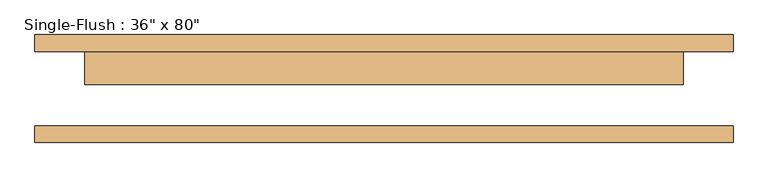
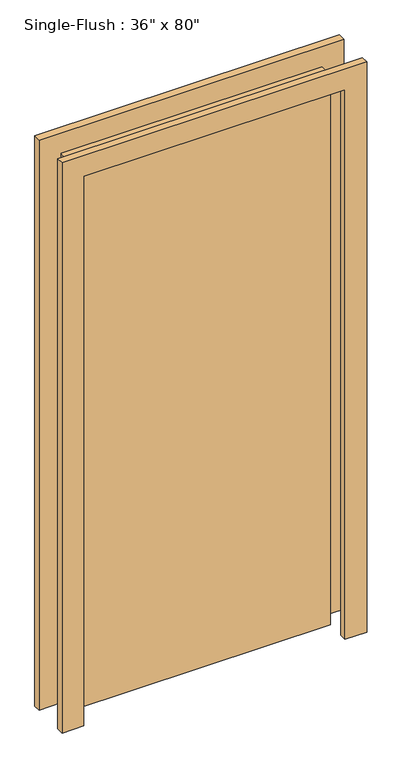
"""IFC4 building model written with IfcOpenShell, lengths in millimetres: door geometry."""

import ifcopenshell
import ifcopenshell.guid

model = None  # the IFC model being written
_history = None  # IfcOwnerHistory: only IFC2X3 demands one
_inside = {}  # id of a spatial element -> (the spatial element, [elements in it])
_under = {}  # id of a project, library or spatial element -> (it, [spatial elements below it])
_declared = {}  # id of a project -> (the project, [libraries it declares])
_typed = {}  # id of a type object -> (the type object, [elements of that type])
_made_of = {}  # id of a material, layer set ... -> (it, [elements and type objects made of it])


def new_model(schema):
    """Start an empty IFC model of exactly this schema.

    Asked for "IFC4X3", IfcOpenShell would pick the latest addendum, in which some entities
    have other attributes; the version numbers below select the first issue.
    IFC2X3 requires an IfcOwnerHistory on every rooted entity: one is made here for all.
    """
    global model, _history
    if schema == "IFC4X3":
        model = ifcopenshell.file(schema_version=(4, 3, 0, 0))
    else:
        model = ifcopenshell.file(schema=schema)
    _inside.clear()
    _under.clear()
    _declared.clear()
    _typed.clear()
    _made_of.clear()
    _history = None
    if model.schema == "IFC2X3":
        org = make("IfcOrganization", Name="unknown")
        user = make(
            "IfcPersonAndOrganization",
            ThePerson=make("IfcPerson", FamilyName="unknown"),
            TheOrganization=org,
        )
        app = make(
            "IfcApplication",
            ApplicationDeveloper=org,
            Version="unknown",
            ApplicationFullName="unknown",
            ApplicationIdentifier="unknown",
        )
        _history = make(
            "IfcOwnerHistory",
            OwningUser=user,
            OwningApplication=app,
            ChangeAction="ADDED",
            CreationDate=0,
        )
    return model


def make(cls, **values):
    """One entity of the class cls with the attributes given. An attribute that is None is left unset."""
    return model.create_entity(
        cls, **{name: value for name, value in values.items() if value is not None}
    )


def rooted(cls, **values):
    """An entity with a GlobalId (a new one), such as an element, a storey or a relation."""
    return make(cls, GlobalId=ifcopenshell.guid.new(), OwnerHistory=_history, **values)


def si_unit(unit_type, name, prefix=None):
    """IfcSIUnit, for example si_unit("LENGTHUNIT", "METRE", prefix="MILLI")."""
    return make("IfcSIUnit", UnitType=unit_type, Prefix=prefix, Name=name)


def assignment(units):
    """IfcUnitAssignment: the units of a project."""
    return None if units is None else make("IfcUnitAssignment", Units=units)


def point(xyz):
    """IfcCartesianPoint."""
    return None if xyz is None else make("IfcCartesianPoint", Coordinates=xyz)


def direction(xyz):
    """IfcDirection."""
    return None if xyz is None else make("IfcDirection", DirectionRatios=xyz)


def frame(location, z_axis=None, x_axis=None):
    """IfcAxis2Placement3D, a coordinate frame: its origin and axes. An axis left out is left unset."""
    return make(
        "IfcAxis2Placement3D",
        Location=point(location),
        Axis=direction(z_axis),
        RefDirection=direction(x_axis),
    )


def origin():
    """The frame at (0, 0, 0) with its axes left unset."""
    return frame((0.0, 0.0, 0.0))


def origin_with_axes():
    """The frame at (0, 0, 0) with the z axis (0, 0, 1) and the x axis (1, 0, 0) written out."""
    return frame((0.0, 0.0, 0.0), z_axis=(0.0, 0.0, 1.0), x_axis=(1.0, 0.0, 0.0))


def place(relative_to, where):
    """IfcLocalPlacement: puts the frame where relative to a parent placement (None: the world)."""
    return make(
        "IfcLocalPlacement", PlacementRelTo=relative_to, RelativePlacement=where
    )


def context(
    kind, dimensions, precision=None, world=None, true_north=None, identifier=None
):
    """IfcGeometricRepresentationContext, for example the 3D "Model" context."""
    return make(
        "IfcGeometricRepresentationContext",
        ContextIdentifier=identifier,
        ContextType=kind,
        CoordinateSpaceDimension=dimensions,
        Precision=precision,
        WorldCoordinateSystem=world,
        TrueNorth=true_north,
    )


def project(units=None, contexts=None):
    """IfcProject with its units and contexts."""
    return rooted(
        "IfcProject",
        Name="project",
        RepresentationContexts=contexts,
        UnitsInContext=assignment(units),
    )


def spatial(cls, under=None, at=None, **own):
    """A site, building, storey or space (cls), placed at a placement, below another one or the project."""
    s = rooted(cls, ObjectPlacement=at, **own)
    if under is not None:
        _under.setdefault(under.id(), (under, []))[1].append(s)
    return s


def polyline(points):
    """IfcPolyline through the points."""
    return make("IfcPolyline", Points=[point(p) for p in points])


def outline(outer, holes=None, kind="AREA"):
    """IfcArbitraryClosedProfileDef: a profile drawn as a closed curve; with holes, ...WithVoids."""
    if holes is None:
        return make("IfcArbitraryClosedProfileDef", ProfileType=kind, OuterCurve=outer)
    return make(
        "IfcArbitraryProfileDefWithVoids",
        ProfileType=kind,
        OuterCurve=outer,
        InnerCurves=holes,
    )


def extrude(swept, where, along, depth):
    """IfcExtrudedAreaSolid: the profile swept, set in the frame where, extruded along a direction by depth."""
    return make(
        "IfcExtrudedAreaSolid",
        SweptArea=swept,
        Position=where,
        ExtrudedDirection=direction(along),
        Depth=depth,
    )


def shape(context_of_items, identifier, shape_type, items):
    """IfcShapeRepresentation: the items that make up one representation, for example the "Body"."""
    return make(
        "IfcShapeRepresentation",
        ContextOfItems=context_of_items,
        RepresentationIdentifier=identifier,
        RepresentationType=shape_type,
        Items=items,
    )


def source(mapping_origin, context_of_items, identifier, shape_type, items):
    """IfcRepresentationMap: a shape defined once, which mapped items show again and again."""
    return make(
        "IfcRepresentationMap",
        MappingOrigin=mapping_origin,
        MappedRepresentation=shape(context_of_items, identifier, shape_type, items),
    )


def transform(
    local_origin,
    x_axis=None,
    y_axis=None,
    z_axis=None,
    scale=None,
    scale2=None,
    scale3=None,
    uniform=True,
):
    """IfcCartesianTransformationOperator3D, or its non-uniform kind. x_axis, y_axis, z_axis: its Axis1, 2, 3."""
    if uniform:
        return make(
            "IfcCartesianTransformationOperator3D",
            Axis1=direction(x_axis),
            Axis2=direction(y_axis),
            LocalOrigin=point(local_origin),
            Scale=scale,
            Axis3=direction(z_axis),
        )
    return make(
        "IfcCartesianTransformationOperator3DnonUniform",
        Axis1=direction(x_axis),
        Axis2=direction(y_axis),
        LocalOrigin=point(local_origin),
        Scale=scale,
        Axis3=direction(z_axis),
        Scale2=scale2,
        Scale3=scale3,
    )


def mapped(mapping_source, mapping_target):
    """IfcMappedItem: shows the shape of a source again, moved by a transform."""
    return make(
        "IfcMappedItem", MappingSource=mapping_source, MappingTarget=mapping_target
    )


def made_of(thing, what):
    """Note that an element or type object is made of a material, layer set ...; save() writes the relation."""
    if what is not None:
        _made_of.setdefault(what.id(), (what, []))[1].append(thing)
    return thing


def element(
    cls,
    number,
    at=None,
    inside=None,
    cuts=None,
    type_object=None,
    material=None,
    context=None,
    identifier="Body",
    shape_type=None,
    held_by="IfcProductDefinitionShape",
    body=None,
    shapes=None,
    **own,
):
    """One element of the class cls, such as IfcWall. Its Tag is "e" and its number.

    at: its placement. inside: the storey or other place that contains it. cuts: it is an
    opening in that element (IfcRelVoidsElement). A single representation is given by context,
    identifier, shape_type and body (its items); several are given by shapes. held_by: the class
    of the entity that holds the representations. save() writes the other relations.
    """
    e = rooted(cls, Tag="e%d" % number, ObjectPlacement=at, **own)
    if body is not None:
        shapes = [shape(context, identifier, shape_type, body)]
    if shapes is not None:
        e.Representation = make(held_by, Representations=shapes)
    if inside is not None:
        _inside.setdefault(inside.id(), (inside, []))[1].append(e)
    if cuts is not None:
        rooted(
            "IfcRelVoidsElement", RelatingBuildingElement=cuts, RelatedOpeningElement=e
        )
    if type_object is not None:
        _typed.setdefault(type_object.id(), (type_object, []))[1].append(e)
    return made_of(e, material)


def aggregate(whole, parts):
    """IfcRelAggregates: a whole, such as a stair, and the parts it consists of."""
    return rooted("IfcRelAggregates", RelatingObject=whole, RelatedObjects=parts)


def save(model, path):
    """Write the relations noted so far, then the file.

    IfcRelAggregates (storeys below a building ...), IfcRelContainedInSpatialStructure (elements
    in a storey), IfcRelDefinesByType, IfcRelAssociatesMaterial and IfcRelDeclares: one each for
    every whole, place, type object, material and project.
    """
    for whole, parts in _under.values():
        aggregate(whole, parts)
    for where, things in _inside.values():
        rooted(
            "IfcRelContainedInSpatialStructure",
            RelatedElements=things,
            RelatingStructure=where,
        )
    for kind, things in _typed.values():
        rooted("IfcRelDefinesByType", RelatedObjects=things, RelatingType=kind)
    for what, things in _made_of.values():
        rooted("IfcRelAssociatesMaterial", RelatedObjects=things, RelatingMaterial=what)
    for by, libraries in _declared.values():
        rooted("IfcRelDeclares", RelatingContext=by, RelatedDefinitions=libraries)
    model.write(path)


def door_17d80c48(model_context):
    return source(origin(), model_context, "Body", "SweptSolid", [
        extrude(outline(polyline([(2108.2, -533.4), (0.0, -533.4), (0.0, -457.2), (2032.0, -457.2), (2032.0, 457.2), (0.0, 457.2), (0.0, 533.4), (2108.2, 533.4), (2108.2, -533.4)])), frame((0.0, 57.15, 0.0), z_axis=(0.0, 1.0, 0.0), x_axis=(0.0, 0.0, 1.0)), (0.0, 0.0, 1.0), 25.4),
        extrude(outline(polyline([(2108.2, 533.4), (2108.2, -533.4), (0.0, -533.4), (0.0, -457.2), (2032.0, -457.2), (2032.0, 457.2), (0.0, 457.2), (0.0, 533.4), (2108.2, 533.4)])), frame((0.0, -82.55, 0.0), z_axis=(0.0, 1.0, 0.0), x_axis=(0.0, 0.0, 1.0)), (0.0, 0.0, 1.0), 25.4),
        extrude(outline(polyline([(457.2, 6.35), (-457.2, 6.35), (-457.2, 57.15), (457.2, 57.15), (457.2, 6.35)])), origin_with_axes(), (0.0, 0.0, 1.0), 2032.0),
    ])


if __name__ == "__main__":
    model = new_model("IFC4")
    model_context = context("Model", 3, world=origin())
    ifc_project = project(units=[si_unit("LENGTHUNIT", "METRE", prefix="MILLI")], contexts=[model_context])
    site = spatial("IfcSite", under=ifc_project)
    building = spatial("IfcBuilding", under=site)
    placement = place(None, origin())
    door_shape = door_17d80c48(model_context)
    element("IfcDoor", 1, ObjectType="Single-Flush : 36\" x 80\"", at=placement, inside=building, context=model_context, shape_type="MappedRepresentation", body=[
        mapped(door_shape, transform((0.0, 0.0, 0.0), x_axis=(1.0, 0.0, 0.0), y_axis=(0.0, 1.0, 0.0), z_axis=(0.0, 0.0, 1.0))),
    ])
    save(model, "model.ifc")
